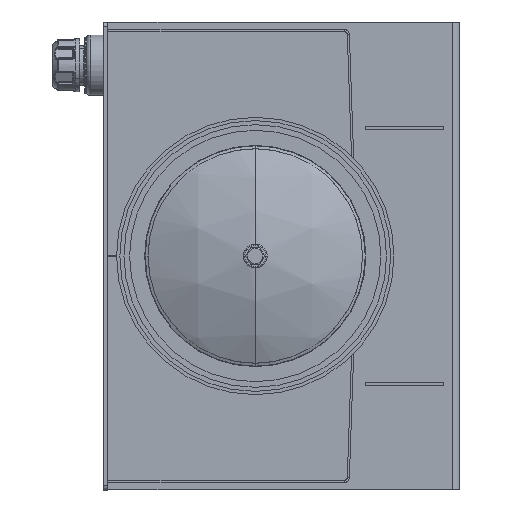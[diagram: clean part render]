
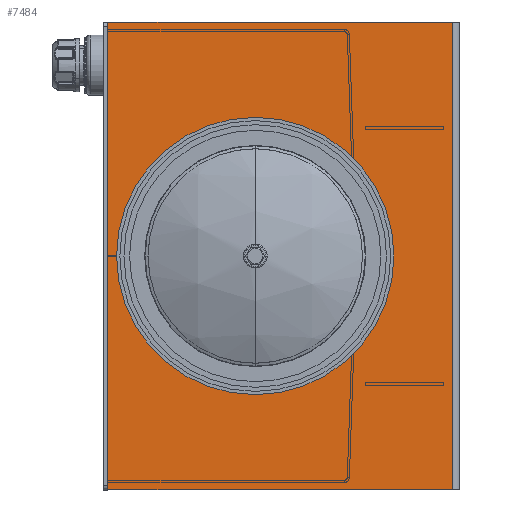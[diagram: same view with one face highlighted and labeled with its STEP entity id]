
A CAD part, left-side view. The second image highlights one B-rep face of the part: STEP entity #7484.
In plain terms, the highlighted planar face has unit normal (-1, 0, 0).
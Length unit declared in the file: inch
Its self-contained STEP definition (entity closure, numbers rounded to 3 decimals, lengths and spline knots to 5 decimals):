
#178 = ORIENTED_EDGE ( 'NONE', *, *, #22571, .T. ) ;
#637 = AXIS2_PLACEMENT_3D ( 'NONE', #9688, #19244, #7958 ) ;
#1143 = DIRECTION ( 'NONE',  ( 0., 0., 1. ) ) ;
#2833 = ORIENTED_EDGE ( 'NONE', *, *, #22290, .F. ) ;
#2865 = VERTEX_POINT ( 'NONE', #12669 ) ;
#2871 = FACE_BOUND ( 'NONE', #20041, .T. ) ;
#4900 = VERTEX_POINT ( 'NONE', #8032 ) ;
#5616 = DIRECTION ( 'NONE',  ( 0., 1., 0. ) ) ;
#7484 = ADVANCED_FACE ( 'NONE', ( #2871, #17261 ), #17331, .F. ) ;
#7769 = LINE ( 'NONE', #12334, #23878 ) ;
#7958 = DIRECTION ( 'NONE',  ( 0., 0., -1. ) ) ;
#8032 = CARTESIAN_POINT ( 'NONE',  ( -33.75369, -10.04002, 17.18604 ) ) ;
#8384 = CIRCLE ( 'NONE', #11891, 6.125 ) ;
#8738 = VERTEX_POINT ( 'NONE', #22924 ) ;
#8985 = VERTEX_POINT ( 'NONE', #20318 ) ;
#9008 = VERTEX_POINT ( 'NONE', #24015 ) ;
#9015 = LINE ( 'NONE', #12674, #13455 ) ;
#9355 = DIRECTION ( 'NONE',  ( -1., 0., 0. ) ) ;
#9688 = CARTESIAN_POINT ( 'NONE',  ( -33.75369, 9.84318, -9.81396 ) ) ;
#10371 = CARTESIAN_POINT ( 'NONE',  ( -33.75369, 1.71318, 3.68604 ) ) ;
#11258 = LINE ( 'NONE', #17324, #20744 ) ;
#11667 = AXIS2_PLACEMENT_3D ( 'NONE', #20720, #9355, #22596 ) ;
#11891 = AXIS2_PLACEMENT_3D ( 'NONE', #10371, #23527, #12293 ) ;
#12293 = DIRECTION ( 'NONE',  ( 0., 0., 1. ) ) ;
#12334 = CARTESIAN_POINT ( 'NONE',  ( -33.75369, -10.04002, -9.81396 ) ) ;
#12669 = CARTESIAN_POINT ( 'NONE',  ( -33.75369, 9.84318, -9.81396 ) ) ;
#12674 = CARTESIAN_POINT ( 'NONE',  ( -33.75369, -10.46932, -9.81396 ) ) ;
#13087 = ORIENTED_EDGE ( 'NONE', *, *, #22730, .T. ) ;
#13455 = VECTOR ( 'NONE', #14600, 39.37008 ) ;
#13642 = LINE ( 'NONE', #18748, #14228 ) ;
#13687 = ORIENTED_EDGE ( 'NONE', *, *, #20245, .T. ) ;
#14228 = VECTOR ( 'NONE', #5616, 39.37008 ) ;
#14600 = DIRECTION ( 'NONE',  ( 0., -1., 0. ) ) ;
#14948 = EDGE_LOOP ( 'NONE', ( #22808, #178, #13087, #13687 ) ) ;
#15329 = VERTEX_POINT ( 'NONE', #17360 ) ;
#15534 = DIRECTION ( 'NONE',  ( 0., 0., -1. ) ) ;
#17261 = FACE_OUTER_BOUND ( 'NONE', #14948, .T. ) ;
#17324 = CARTESIAN_POINT ( 'NONE',  ( -33.75369, 9.84318, -9.81396 ) ) ;
#17331 = PLANE ( 'NONE',  #637 ) ;
#17360 = CARTESIAN_POINT ( 'NONE',  ( -33.75369, 1.71318, 9.81104 ) ) ;
#18097 = CIRCLE ( 'NONE', #11667, 6.125 ) ;
#18748 = CARTESIAN_POINT ( 'NONE',  ( -33.75369, -10.46932, 17.18604 ) ) ;
#19244 = DIRECTION ( 'NONE',  ( 1., 0., 0. ) ) ;
#20041 = EDGE_LOOP ( 'NONE', ( #21668, #2833 ) ) ;
#20245 = EDGE_CURVE ( 'NONE', #2865, #9008, #9015, .T. ) ;
#20318 = CARTESIAN_POINT ( 'NONE',  ( -33.75369, 1.71318, -2.43896 ) ) ;
#20720 = CARTESIAN_POINT ( 'NONE',  ( -33.75369, 1.71318, 3.68604 ) ) ;
#20744 = VECTOR ( 'NONE', #15534, 39.37008 ) ;
#21668 = ORIENTED_EDGE ( 'NONE', *, *, #22606, .F. ) ;
#22290 = EDGE_CURVE ( 'NONE', #8985, #15329, #8384, .T. ) ;
#22571 = EDGE_CURVE ( 'NONE', #4900, #8738, #13642, .T. ) ;
#22596 = DIRECTION ( 'NONE',  ( 0., 0., 1. ) ) ;
#22606 = EDGE_CURVE ( 'NONE', #15329, #8985, #18097, .T. ) ;
#22730 = EDGE_CURVE ( 'NONE', #8738, #2865, #11258, .T. ) ;
#22808 = ORIENTED_EDGE ( 'NONE', *, *, #22910, .T. ) ;
#22910 = EDGE_CURVE ( 'NONE', #9008, #4900, #7769, .T. ) ;
#22924 = CARTESIAN_POINT ( 'NONE',  ( -33.75369, 9.84318, 17.18604 ) ) ;
#23527 = DIRECTION ( 'NONE',  ( -1., 0., 0. ) ) ;
#23878 = VECTOR ( 'NONE', #1143, 39.37008 ) ;
#24015 = CARTESIAN_POINT ( 'NONE',  ( -33.75369, -10.04002, -9.81396 ) ) ;
